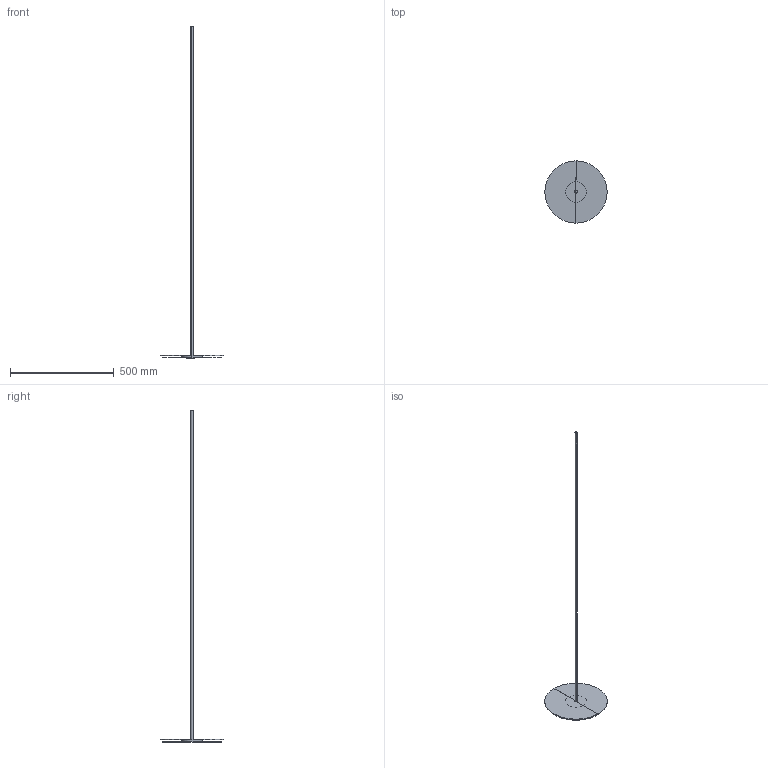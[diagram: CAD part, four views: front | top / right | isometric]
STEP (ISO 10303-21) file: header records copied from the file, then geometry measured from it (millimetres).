
FILE_DESCRIPTION(/* description */ (''),/* implementation_level */ '2;1');
FILE_NAME(/* name */ 'C:\Users\Franco Sartori E\Documents\FARO\DUPLICADO\Modelos\01_Digitalizados\0_WHIZZ\03_Publicación\20164.stp',/* time_stamp */ '2020-10-05T13:05:56+02:00',/* author */ ('Franco Sartori E'),/* organization */ (''),/* preprocessor_version */ 'ST-DEVELOPER v18.1',/* originating_system */ 'AutoCAD Mechanical',/* authorisation */ '');
FILE_SCHEMA (('AUTOMOTIVE_DESIGN { 1 0 10303 214 3 1 1 }'));
Length unit declared in the file: millimetre
Products named in the file (2): Product; 20164_ - WHIZZ-456505-Export
Assembly tree (1 placements, depth 2):
  Product
    20164_ - WHIZZ-456505-Export
Bounding box: 300 x 300 x 1600 mm (x, y, z)
Volume: 522434.3 mm3; surface area: 315390.8 mm2
Topology: 1 solids, 1 shells, 18 faces, 32 edges, 16 vertices
Faces by surface type: plane 10, cylinder 8
Entity records: 474 total; most frequent: DIRECTION 90, CARTESIAN_POINT 69, ORIENTED_EDGE 64, AXIS2_PLACEMENT_3D 37, EDGE_CURVE 32, FACE_OUTER_BOUND 18, EDGE_LOOP 18, ADVANCED_FACE 18
